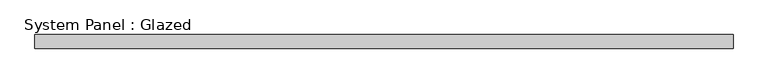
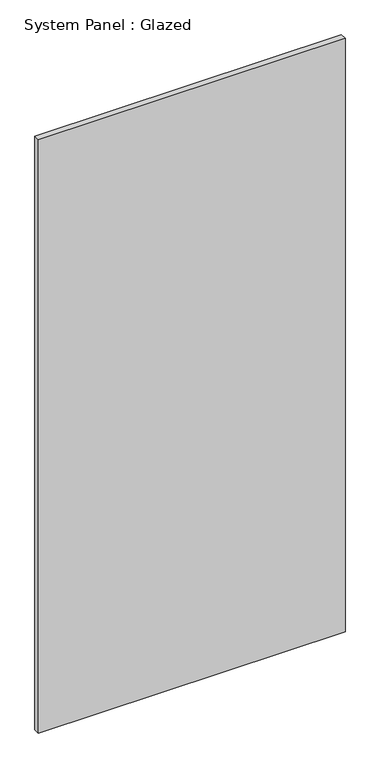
"""IFC4 building model written with IfcOpenShell, lengths in millimetres: plate geometry, System Panel : Glazed."""

from ifc_helpers import new_model, si_unit, origin, origin_with_axes, place, context, project, spatial, polyline, outline, extrude, source, transform, mapped, element, save


def system_panel_glazed_a2e86c99(model_context):
    return source(origin(), model_context, "Body", "SweptSolid", [
        extrude(outline(polyline([(635.0, 19.05), (-635.0, 19.05), (-635.0, 44.45), (635.0, 44.45), (635.0, 19.05)])), origin_with_axes(), (0.0, 0.0, 1.0), 2597.7570075),
    ])


if __name__ == "__main__":
    model = new_model("IFC4")
    model_context = context("Model", 3, world=origin())
    ifc_project = project(units=[si_unit("LENGTHUNIT", "METRE", prefix="MILLI")], contexts=[model_context])
    site = spatial("IfcSite", under=ifc_project)
    building = spatial("IfcBuilding", under=site)
    placement = place(None, origin())
    system_panel_glazed_shape = system_panel_glazed_a2e86c99(model_context)
    element("IfcPlate", 1, ObjectType="System Panel : Glazed", at=placement, inside=building, context=model_context, shape_type="MappedRepresentation", body=[
        mapped(system_panel_glazed_shape, transform((0.0, 0.0, 0.0), x_axis=(1.0, 0.0, 0.0), y_axis=(0.0, 1.0, 0.0), z_axis=(0.0, 0.0, 1.0))),
    ])
    save(model, "model.ifc")
